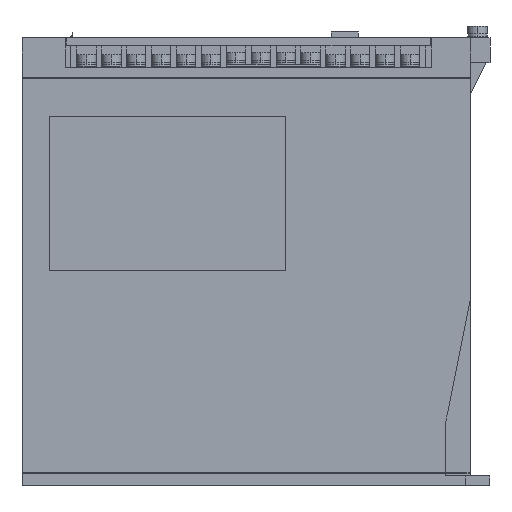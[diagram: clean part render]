
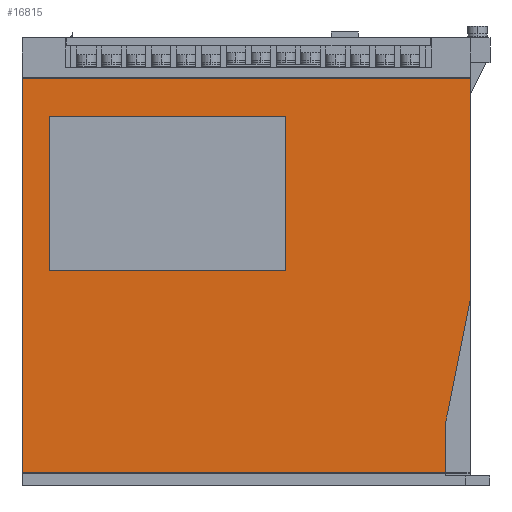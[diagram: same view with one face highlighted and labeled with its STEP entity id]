
A CAD part, left-side view. The second image highlights one B-rep face of the part: STEP entity #16815.
In plain terms, the highlighted planar face has unit normal (-1, 0, 0).
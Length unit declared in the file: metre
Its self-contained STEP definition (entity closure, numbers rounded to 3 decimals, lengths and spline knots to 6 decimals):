
#902 = VECTOR ( 'NONE', #33826, 1. ) ;
#940 = ORIENTED_EDGE ( 'NONE', *, *, #9918, .F. ) ;
#983 = ORIENTED_EDGE ( 'NONE', *, *, #44437, .F. ) ;
#2672 = LINE ( 'NONE', #20348, #24170 ) ;
#3030 = VERTEX_POINT ( 'NONE', #31790 ) ;
#3761 = VECTOR ( 'NONE', #33728, 1. ) ;
#4286 = VERTEX_POINT ( 'NONE', #53349 ) ;
#4345 = CARTESIAN_POINT ( 'NONE',  ( -0.095, -0.175, 0.0744 ) ) ;
#5327 = EDGE_CURVE ( 'NONE', #20131, #21821, #55792, .T. ) ;
#5556 = EDGE_CURVE ( 'NONE', #19347, #15210, #13954, .T. ) ;
#7568 = EDGE_CURVE ( 'NONE', #4286, #42855, #48666, .T. ) ;
#8087 = CARTESIAN_POINT ( 'NONE',  ( -0.095, 0.005, 0.1485 ) ) ;
#8527 = DIRECTION ( 'NONE',  ( 0., 0., -1. ) ) ;
#8921 = CARTESIAN_POINT ( 'NONE',  ( -0.095, -0.174, 0.0052 ) ) ;
#9918 = EDGE_CURVE ( 'NONE', #17132, #3030, #47838, .T. ) ;
#11339 = VECTOR ( 'NONE', #26593, 1. ) ;
#12629 = VECTOR ( 'NONE', #14502, 1. ) ;
#12879 = PLANE ( 'NONE',  #25110 ) ;
#12986 = EDGE_CURVE ( 'NONE', #48112, #23453, #44081, .T. ) ;
#12990 = LINE ( 'NONE', #30673, #50573 ) ;
#13954 = LINE ( 'NONE', #31631, #53036 ) ;
#14502 = DIRECTION ( 'NONE',  ( 0., 0., -1. ) ) ;
#14544 = CARTESIAN_POINT ( 'NONE',  ( -0.095, -0.165, 0.369913 ) ) ;
#14630 = CARTESIAN_POINT ( 'NONE',  ( -0.095, -0.175, 0.1638 ) ) ;
#15210 = VERTEX_POINT ( 'NONE', #36937 ) ;
#16031 = CARTESIAN_POINT ( 'NONE',  ( -0.095, 0.005, 0.1638 ) ) ;
#16124 = CARTESIAN_POINT ( 'NONE',  ( -0.095, -0.006, 0.369913 ) ) ;
#16815 = ADVANCED_FACE ( 'NONE', ( #34918, #52629 ), #12879, .F. ) ;
#17132 = VERTEX_POINT ( 'NONE', #47085 ) ;
#18372 = CARTESIAN_POINT ( 'NONE',  ( -0.095, 0.005, 0.0052 ) ) ;
#19347 = VERTEX_POINT ( 'NONE', #45089 ) ;
#19923 = ORIENTED_EDGE ( 'NONE', *, *, #7568, .F. ) ;
#20131 = VERTEX_POINT ( 'NONE', #49218 ) ;
#20335 = EDGE_CURVE ( 'NONE', #3030, #19347, #55887, .T. ) ;
#20348 = CARTESIAN_POINT ( 'NONE',  ( -0.095, -0.175, 0.369913 ) ) ;
#21700 = ORIENTED_EDGE ( 'NONE', *, *, #53284, .F. ) ;
#21821 = VERTEX_POINT ( 'NONE', #14630 ) ;
#22005 = DIRECTION ( 'NONE',  ( 0., 0.196, -0.981 ) ) ;
#22326 = EDGE_CURVE ( 'NONE', #21821, #48112, #2672, .T. ) ;
#23237 = EDGE_CURVE ( 'NONE', #20131, #42855, #36543, .T. ) ;
#23453 = VERTEX_POINT ( 'NONE', #57314 ) ;
#24170 = VECTOR ( 'NONE', #38050, 1. ) ;
#25110 = AXIS2_PLACEMENT_3D ( 'NONE', #30564, #48273, #8527 ) ;
#25373 = ORIENTED_EDGE ( 'NONE', *, *, #5327, .F. ) ;
#25763 = DIRECTION ( 'NONE',  ( 0., 1., 0. ) ) ;
#26593 = DIRECTION ( 'NONE',  ( 0., 1., 0. ) ) ;
#27857 = VECTOR ( 'NONE', #32227, 1. ) ;
#28253 = VECTOR ( 'NONE', #22005, 1. ) ;
#29652 = ORIENTED_EDGE ( 'NONE', *, *, #5556, .F. ) ;
#30564 = CARTESIAN_POINT ( 'NONE',  ( -0.095, 0.005, 0.369913 ) ) ;
#30673 = CARTESIAN_POINT ( 'NONE',  ( -0.095, -0.101, 0.369913 ) ) ;
#31631 = CARTESIAN_POINT ( 'NONE',  ( -0.095, 0.005, 0.0865 ) ) ;
#31790 = CARTESIAN_POINT ( 'NONE',  ( -0.095, -0.006, 0.1485 ) ) ;
#32227 = DIRECTION ( 'NONE',  ( 0., 0., -1. ) ) ;
#32757 = CARTESIAN_POINT ( 'NONE',  ( -0.095, -0.175, 0.0744 ) ) ;
#32770 = ORIENTED_EDGE ( 'NONE', *, *, #22326, .F. ) ;
#33498 = EDGE_LOOP ( 'NONE', ( #29652, #44914, #940, #21700 ) ) ;
#33728 = DIRECTION ( 'NONE',  ( 0., -1., 0. ) ) ;
#33826 = DIRECTION ( 'NONE',  ( 0., 0., -1. ) ) ;
#34580 = ORIENTED_EDGE ( 'NONE', *, *, #12986, .F. ) ;
#34918 = FACE_OUTER_BOUND ( 'NONE', #46178, .T. ) ;
#36543 = LINE ( 'NONE', #54251, #12629 ) ;
#36937 = CARTESIAN_POINT ( 'NONE',  ( -0.095, -0.101, 0.0865 ) ) ;
#38050 = DIRECTION ( 'NONE',  ( 0., 0., -1. ) ) ;
#40841 = VECTOR ( 'NONE', #25763, 1. ) ;
#42855 = VERTEX_POINT ( 'NONE', #18372 ) ;
#44081 = LINE ( 'NONE', #4345, #28253 ) ;
#44437 = EDGE_CURVE ( 'NONE', #23453, #4286, #54301, .T. ) ;
#44914 = ORIENTED_EDGE ( 'NONE', *, *, #20335, .F. ) ;
#45089 = CARTESIAN_POINT ( 'NONE',  ( -0.095, -0.006, 0.0865 ) ) ;
#46178 = EDGE_LOOP ( 'NONE', ( #983, #34580, #32770, #25373, #54209, #19923 ) ) ;
#47085 = CARTESIAN_POINT ( 'NONE',  ( -0.095, -0.101, 0.1485 ) ) ;
#47838 = LINE ( 'NONE', #8087, #40841 ) ;
#48112 = VERTEX_POINT ( 'NONE', #32757 ) ;
#48273 = DIRECTION ( 'NONE',  ( 1., 0., 0. ) ) ;
#48385 = DIRECTION ( 'NONE',  ( 0., 0., 1. ) ) ;
#48666 = LINE ( 'NONE', #8921, #11339 ) ;
#49218 = CARTESIAN_POINT ( 'NONE',  ( -0.095, 0.005, 0.1638 ) ) ;
#49344 = DIRECTION ( 'NONE',  ( 0., -1., 0. ) ) ;
#50573 = VECTOR ( 'NONE', #48385, 1. ) ;
#52629 = FACE_BOUND ( 'NONE', #33498, .T. ) ;
#53036 = VECTOR ( 'NONE', #49344, 1. ) ;
#53284 = EDGE_CURVE ( 'NONE', #15210, #17132, #12990, .T. ) ;
#53349 = CARTESIAN_POINT ( 'NONE',  ( -0.095, -0.165, 0.0052 ) ) ;
#54209 = ORIENTED_EDGE ( 'NONE', *, *, #23237, .T. ) ;
#54251 = CARTESIAN_POINT ( 'NONE',  ( -0.095, 0.005, 0.369913 ) ) ;
#54301 = LINE ( 'NONE', #14544, #27857 ) ;
#55792 = LINE ( 'NONE', #16031, #3761 ) ;
#55887 = LINE ( 'NONE', #16124, #902 ) ;
#57314 = CARTESIAN_POINT ( 'NONE',  ( -0.095, -0.165, 0.0244 ) ) ;
